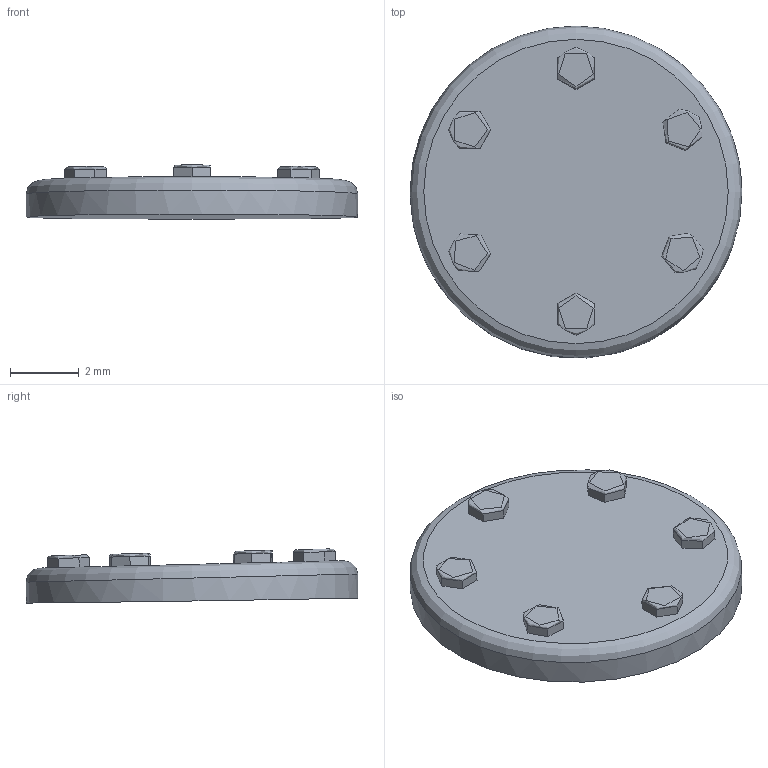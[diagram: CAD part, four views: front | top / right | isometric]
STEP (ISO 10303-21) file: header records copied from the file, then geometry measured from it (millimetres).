
FILE_DESCRIPTION(/* description */ ('','CAx-IF Rec.Pracs.---Representation and Presentation of Product Manufacturing Information (PMI)---4.0---2014-10-13'),/* implementation_level */ '2;1');
FILE_NAME(/* name */ '20vosperforemastbase.step',/* time_stamp */ '2025-03-24T21:59:09+11:00',/* author */ (''),/* organization */ (''),/* preprocessor_version */ 'ST-DEVELOPER v20',/* originating_system */ 'Autodesk Translation Framework v13.20.0.188',/* authorisation */ '');
FILE_SCHEMA (('AP242_MANAGED_MODEL_BASED_3D_ENGINEERING_MIM_LF { 1 0 10303 442 1 1 4 }'));
Length unit declared in the file: millimetre
Products named in the file (1): 20scaleVosperDeckStuff
Bounding box: 9.69 x 9.69 x 1.58 mm (x, y, z)
Volume: 79.1 mm3; surface area: 182 mm2
Topology: 1 solids, 1 shells, 52 faces, 126 edges, 82 vertices
Faces by surface type: plane 43, torus 7, bspline 1, cylinder 1
Full cylindrical faces by diameter (mm): 9.685 x1
Entity records: 2260 total; most frequent: CARTESIAN_POINT 1067, ORIENTED_EDGE 252, DIRECTION 207, EDGE_CURVE 126, VERTEX_POINT 82, LINE 73, VECTOR 73, AXIS2_PLACEMENT_3D 67
